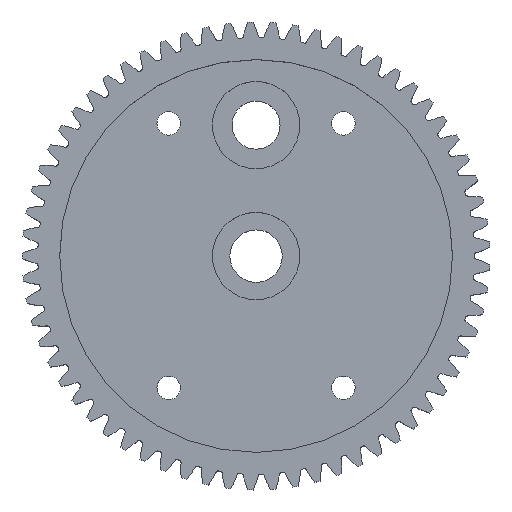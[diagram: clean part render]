
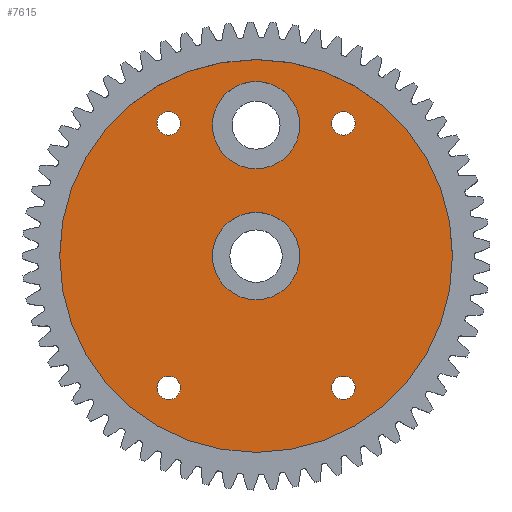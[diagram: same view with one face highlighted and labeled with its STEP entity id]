
A CAD part, top view. The second image highlights one B-rep face of the part: STEP entity #7615.
In plain terms, the highlighted planar face has unit normal (0, 0, 1).
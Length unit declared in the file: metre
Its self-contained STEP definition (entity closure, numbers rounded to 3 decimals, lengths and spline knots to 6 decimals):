
#3731=ORIENTED_EDGE('',*,*,#4938,.F.);
#3732=ORIENTED_EDGE('',*,*,#4939,.T.);
#3733=ORIENTED_EDGE('',*,*,#4940,.T.);
#3734=ORIENTED_EDGE('',*,*,#4941,.T.);
#3735=ORIENTED_EDGE('',*,*,#4942,.T.);
#3736=ORIENTED_EDGE('',*,*,#4943,.F.);
#3737=ORIENTED_EDGE('',*,*,#4668,.T.);
#4668=EDGE_CURVE('',#5729,#5729,#6270,.T.);
#4938=EDGE_CURVE('',#5737,#5737,#6276,.T.);
#4939=EDGE_CURVE('',#5738,#5738,#6277,.T.);
#4940=EDGE_CURVE('',#5739,#5739,#6278,.T.);
#4941=EDGE_CURVE('',#5740,#5740,#6279,.F.);
#4942=EDGE_CURVE('',#5741,#5741,#6280,.F.);
#4943=EDGE_CURVE('',#5742,#5742,#6281,.T.);
#5729=VERTEX_POINT('',#16154);
#5737=VERTEX_POINT('',#17636);
#5738=VERTEX_POINT('',#17638);
#5739=VERTEX_POINT('',#17640);
#5740=VERTEX_POINT('',#17642);
#5741=VERTEX_POINT('',#17644);
#5742=VERTEX_POINT('',#17646);
#6270=CIRCLE('',#8287,0.028575);
#6276=CIRCLE('',#8427,0.00635);
#6277=CIRCLE('',#8428,0.001715);
#6278=CIRCLE('',#8429,0.001715);
#6279=CIRCLE('',#8430,0.001715);
#6280=CIRCLE('',#8431,0.001715);
#6281=CIRCLE('',#8432,0.00635);
#6688=EDGE_LOOP('',(#3731));
#6689=EDGE_LOOP('',(#3732));
#6690=EDGE_LOOP('',(#3733));
#6691=EDGE_LOOP('',(#3734));
#6692=EDGE_LOOP('',(#3735));
#6693=EDGE_LOOP('',(#3736));
#6694=EDGE_LOOP('',(#3737));
#7118=FACE_BOUND('',#6688,.T.);
#7119=FACE_BOUND('',#6689,.T.);
#7120=FACE_BOUND('',#6690,.T.);
#7121=FACE_BOUND('',#6691,.T.);
#7122=FACE_BOUND('',#6692,.T.);
#7123=FACE_BOUND('',#6693,.T.);
#7124=FACE_BOUND('',#6694,.T.);
#7218=PLANE('',#8426);
#7615=ADVANCED_FACE('',(#7118,#7119,#7120,#7121,#7122,#7123,#7124),#7218,
 .T.);
#8287=AXIS2_PLACEMENT_3D('',#16153,#9878,#9879);
#8426=AXIS2_PLACEMENT_3D('',#17634,#10418,#10419);
#8427=AXIS2_PLACEMENT_3D('',#17635,#10420,#10421);
#8428=AXIS2_PLACEMENT_3D('',#17637,#10422,#10423);
#8429=AXIS2_PLACEMENT_3D('',#17639,#10424,#10425);
#8430=AXIS2_PLACEMENT_3D('',#17641,#10426,#10427);
#8431=AXIS2_PLACEMENT_3D('',#17643,#10428,#10429);
#8432=AXIS2_PLACEMENT_3D('',#17645,#10430,#10431);
#9878=DIRECTION('',(0.,0.,1.));
#9879=DIRECTION('',(1.,0.,0.));
#10418=DIRECTION('',(0.,0.,1.));
#10419=DIRECTION('',(1.,0.,0.));
#10420=DIRECTION('',(0.,0.,1.));
#10421=DIRECTION('',(1.,0.,0.));
#10422=DIRECTION('',(0.,0.,-1.));
#10423=DIRECTION('',(-1.,0.,0.));
#10424=DIRECTION('',(0.,0.,-1.));
#10425=DIRECTION('',(-1.,0.,0.));
#10426=DIRECTION('',(0.,0.,1.));
#10427=DIRECTION('',(1.,0.,0.));
#10428=DIRECTION('',(0.,0.,1.));
#10429=DIRECTION('',(1.,0.,0.));
#10430=DIRECTION('',(0.,0.,1.));
#10431=DIRECTION('',(1.,0.,0.));
#16153=CARTESIAN_POINT('',(0.,0.,0.00635));
#16154=CARTESIAN_POINT('',(0.028575,0.,0.00635));
#17634=CARTESIAN_POINT('',(0.,0.,0.00635));
#17635=CARTESIAN_POINT('',(0.,0.,0.00635));
#17636=CARTESIAN_POINT('',(0.00635,0.,0.00635));
#17637=CARTESIAN_POINT('',(-0.0127,0.019304,0.00635));
#17638=CARTESIAN_POINT('',(-0.014415,0.019304,0.00635));
#17639=CARTESIAN_POINT('',(0.0127,0.019304,0.00635));
#17640=CARTESIAN_POINT('',(0.010986,0.019304,0.00635));
#17641=CARTESIAN_POINT('',(0.0127,-0.019177,0.00635));
#17642=CARTESIAN_POINT('',(0.014415,-0.019177,0.00635));
#17643=CARTESIAN_POINT('',(-0.0127,-0.019177,0.00635));
#17644=CARTESIAN_POINT('',(-0.010986,-0.019177,0.00635));
#17645=CARTESIAN_POINT('',(0.,0.01905,0.00635));
#17646=CARTESIAN_POINT('',(0.00635,0.01905,0.00635));
